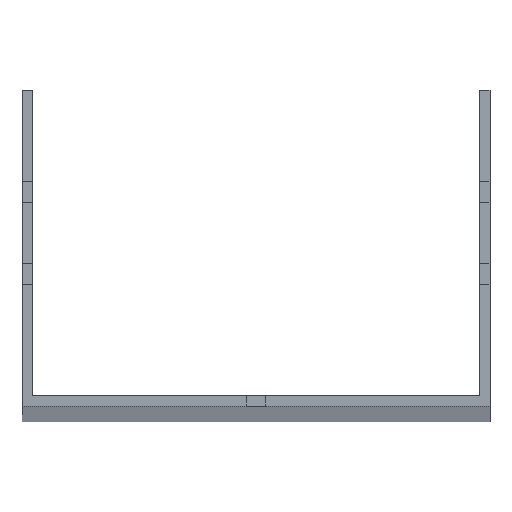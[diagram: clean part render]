
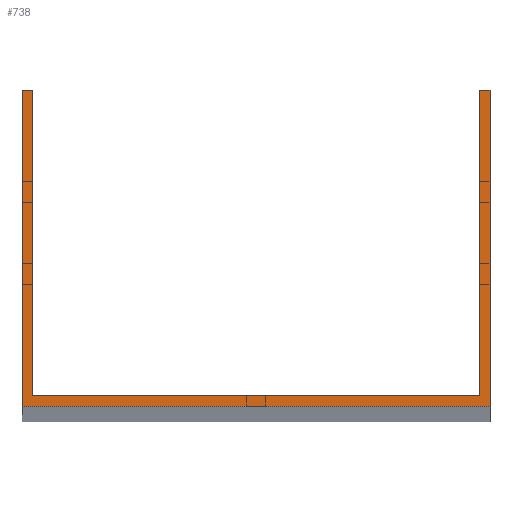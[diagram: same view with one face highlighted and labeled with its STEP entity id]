
A CAD part, top view. The second image highlights one B-rep face of the part: STEP entity #738.
In plain terms, the highlighted planar face has unit normal (0, 0, 1).
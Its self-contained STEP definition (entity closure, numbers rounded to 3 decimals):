
#5 = EDGE_CURVE ( 'NONE', #272, #1564, #138, .T. ) ;
#37 = ORIENTED_EDGE ( 'NONE', *, *, #859, .F. ) ;
#57 = DIRECTION ( 'NONE',  ( -1., 0., 0. ) ) ;
#73 = DIRECTION ( 'NONE',  ( 0., 1., 0. ) ) ;
#95 = VECTOR ( 'NONE', #427, 1000. ) ;
#110 = VERTEX_POINT ( 'NONE', #1461 ) ;
#138 = LINE ( 'NONE', #1547, #413 ) ;
#149 = LINE ( 'NONE', #1032, #609 ) ;
#182 = DIRECTION ( 'NONE',  ( -1., 0., 0. ) ) ;
#191 = CARTESIAN_POINT ( 'NONE',  ( -77., 104., 1500. ) ) ;
#201 = AXIS2_PLACEMENT_3D ( 'NONE', #1358, #866, #452 ) ;
#209 = EDGE_CURVE ( 'NONE', #1564, #759, #677, .T. ) ;
#272 = VERTEX_POINT ( 'NONE', #355 ) ;
#279 = DIRECTION ( 'NONE',  ( 0., 1., 0. ) ) ;
#305 = LINE ( 'NONE', #1622, #1477 ) ;
#352 = CARTESIAN_POINT ( 'NONE',  ( -73.5, 104., 1500. ) ) ;
#353 = ORIENTED_EDGE ( 'NONE', *, *, #983, .T. ) ;
#355 = CARTESIAN_POINT ( 'NONE',  ( 77., 0., 1500. ) ) ;
#359 = CARTESIAN_POINT ( 'NONE',  ( 73.5, 3.5, 1500. ) ) ;
#365 = VECTOR ( 'NONE', #1254, 1000. ) ;
#370 = EDGE_LOOP ( 'NONE', ( #991, #353, #1107, #1463, #926, #1630, #457, #37 ) ) ;
#413 = VECTOR ( 'NONE', #279, 1000. ) ;
#422 = VERTEX_POINT ( 'NONE', #1023 ) ;
#427 = DIRECTION ( 'NONE',  ( 0., -1., 0. ) ) ;
#452 = DIRECTION ( 'NONE',  ( 1., 0., 0. ) ) ;
#457 = ORIENTED_EDGE ( 'NONE', *, *, #996, .F. ) ;
#478 = VECTOR ( 'NONE', #1392, 1000. ) ;
#509 = VERTEX_POINT ( 'NONE', #560 ) ;
#532 = CARTESIAN_POINT ( 'NONE',  ( 77., 104., 1500. ) ) ;
#560 = CARTESIAN_POINT ( 'NONE',  ( -77., 104., 1500. ) ) ;
#609 = VECTOR ( 'NONE', #1433, 1000. ) ;
#610 = LINE ( 'NONE', #745, #365 ) ;
#677 = LINE ( 'NONE', #1223, #1633 ) ;
#738 = ADVANCED_FACE ( 'NONE', ( #994 ), #874, .T. ) ;
#745 = CARTESIAN_POINT ( 'NONE',  ( -77., 0., 1500. ) ) ;
#759 = VERTEX_POINT ( 'NONE', #1130 ) ;
#834 = LINE ( 'NONE', #1588, #906 ) ;
#859 = EDGE_CURVE ( 'NONE', #422, #1446, #149, .T. ) ;
#866 = DIRECTION ( 'NONE',  ( 0., 0., 1. ) ) ;
#872 = LINE ( 'NONE', #352, #478 ) ;
#874 = PLANE ( 'NONE',  #201 ) ;
#906 = VECTOR ( 'NONE', #182, 1000. ) ;
#926 = ORIENTED_EDGE ( 'NONE', *, *, #5, .T. ) ;
#983 = EDGE_CURVE ( 'NONE', #110, #509, #834, .T. ) ;
#986 = EDGE_CURVE ( 'NONE', #509, #1590, #1218, .T. ) ;
#991 = ORIENTED_EDGE ( 'NONE', *, *, #1444, .F. ) ;
#994 = FACE_OUTER_BOUND ( 'NONE', #370, .T. ) ;
#996 = EDGE_CURVE ( 'NONE', #1446, #759, #305, .T. ) ;
#1023 = CARTESIAN_POINT ( 'NONE',  ( -73.5, 3.5, 1500. ) ) ;
#1032 = CARTESIAN_POINT ( 'NONE',  ( -77., 3.5, 1500. ) ) ;
#1107 = ORIENTED_EDGE ( 'NONE', *, *, #986, .T. ) ;
#1130 = CARTESIAN_POINT ( 'NONE',  ( 73.5, 104., 1500. ) ) ;
#1218 = LINE ( 'NONE', #191, #95 ) ;
#1223 = CARTESIAN_POINT ( 'NONE',  ( -77., 104., 1500. ) ) ;
#1254 = DIRECTION ( 'NONE',  ( 1., 0., 0. ) ) ;
#1287 = CARTESIAN_POINT ( 'NONE',  ( -77., 0., 1500. ) ) ;
#1358 = CARTESIAN_POINT ( 'NONE',  ( 0., 0., 1500. ) ) ;
#1392 = DIRECTION ( 'NONE',  ( 0., -1., 0. ) ) ;
#1433 = DIRECTION ( 'NONE',  ( 1., 0., 0. ) ) ;
#1444 = EDGE_CURVE ( 'NONE', #110, #422, #872, .T. ) ;
#1446 = VERTEX_POINT ( 'NONE', #359 ) ;
#1461 = CARTESIAN_POINT ( 'NONE',  ( -73.5, 104., 1500. ) ) ;
#1463 = ORIENTED_EDGE ( 'NONE', *, *, #1474, .T. ) ;
#1474 = EDGE_CURVE ( 'NONE', #1590, #272, #610, .T. ) ;
#1477 = VECTOR ( 'NONE', #73, 1000. ) ;
#1547 = CARTESIAN_POINT ( 'NONE',  ( 77., 104., 1500. ) ) ;
#1564 = VERTEX_POINT ( 'NONE', #532 ) ;
#1588 = CARTESIAN_POINT ( 'NONE',  ( -77., 104., 1500. ) ) ;
#1590 = VERTEX_POINT ( 'NONE', #1287 ) ;
#1622 = CARTESIAN_POINT ( 'NONE',  ( 73.5, 104., 1500. ) ) ;
#1630 = ORIENTED_EDGE ( 'NONE', *, *, #209, .T. ) ;
#1633 = VECTOR ( 'NONE', #57, 1000. ) ;
